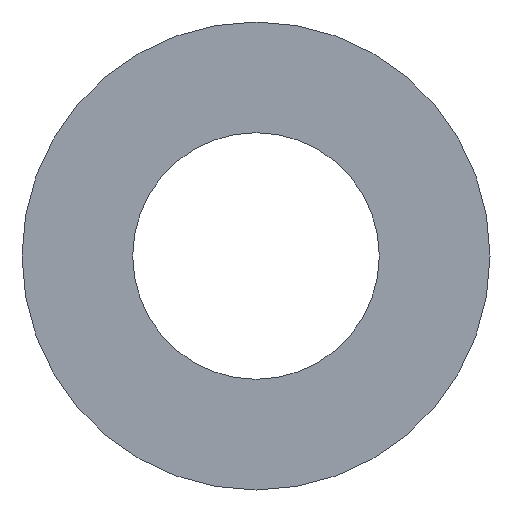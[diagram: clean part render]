
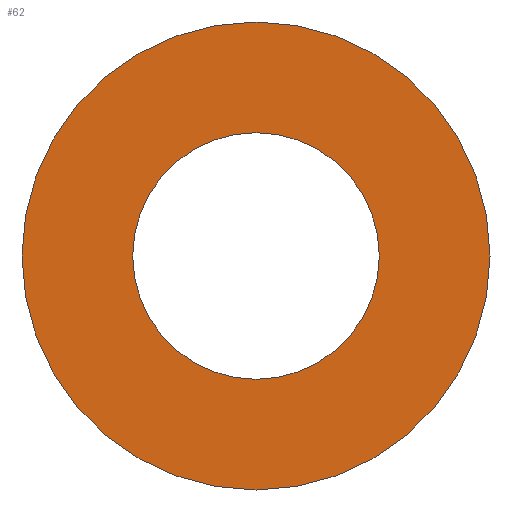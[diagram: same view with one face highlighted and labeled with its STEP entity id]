
A CAD part, front view. The second image highlights one B-rep face of the part: STEP entity #62.
In plain terms, the highlighted planar face has unit normal (0, -1, 0).
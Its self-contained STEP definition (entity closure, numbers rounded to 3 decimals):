
#20=PLANE('',#83);
#26=ORIENTED_EDGE('',*,*,#30,.T.);
#27=ORIENTED_EDGE('',*,*,#32,.F.);
#30=EDGE_CURVE('',#34,#34,#38,.T.);
#32=EDGE_CURVE('',#36,#36,#40,.T.);
#34=VERTEX_POINT('',#106);
#36=VERTEX_POINT('',#111);
#38=CIRCLE('',#78,59.);
#40=CIRCLE('',#81,112.);
#46=EDGE_LOOP('',(#26));
#47=EDGE_LOOP('',(#27));
#54=FACE_BOUND('',#46,.T.);
#55=FACE_BOUND('',#47,.T.);
#62=ADVANCED_FACE('',(#54,#55),#20,.F.);
#78=AXIS2_PLACEMENT_3D('',#105,#89,#90);
#81=AXIS2_PLACEMENT_3D('',#110,#95,#96);
#83=AXIS2_PLACEMENT_3D('',#114,#99,#100);
#89=DIRECTION('',(0.,1.,0.));
#90=DIRECTION('',(1.,0.,0.));
#95=DIRECTION('',(0.,1.,0.));
#96=DIRECTION('',(1.,0.,0.));
#99=DIRECTION('',(0.,1.,0.));
#100=DIRECTION('',(0.,0.,1.));
#105=CARTESIAN_POINT('',(0.,-1.5,0.));
#106=CARTESIAN_POINT('',(59.,-1.5,0.));
#110=CARTESIAN_POINT('',(0.,-1.5,0.));
#111=CARTESIAN_POINT('',(112.,-1.5,0.));
#114=CARTESIAN_POINT('',(0.,-1.5,0.));
